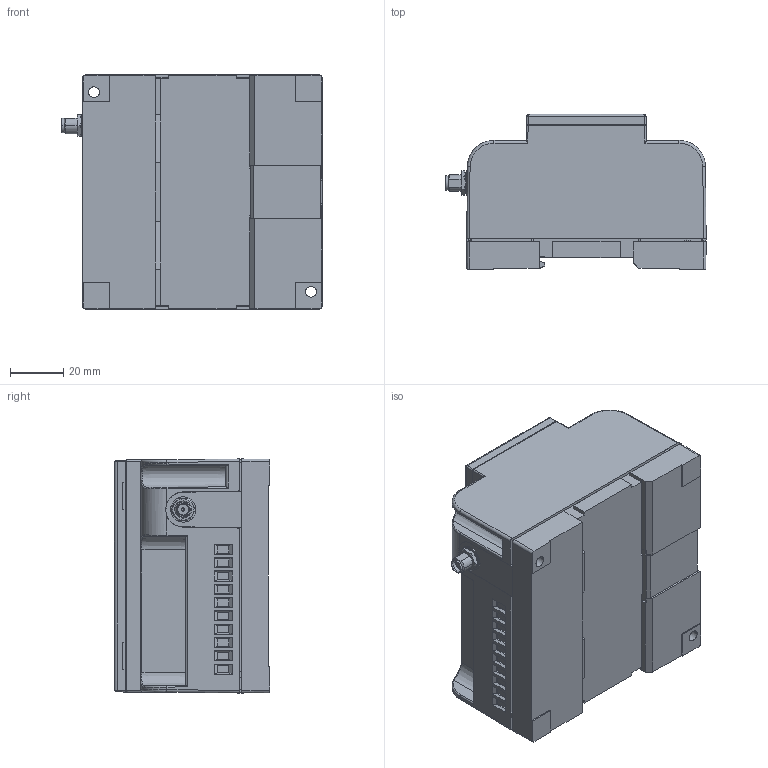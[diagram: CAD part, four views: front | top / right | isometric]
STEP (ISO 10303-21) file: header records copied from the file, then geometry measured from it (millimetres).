
FILE_DESCRIPTION (( 'STEP AP214' ), '1' );
FILE_NAME ('CMS-10R-.STEP', '2021-06-18T07:07:10', ( '' ), ( '' ), 'SwSTEP 2.0', 'SolidWorks 2016', '' );
FILE_SCHEMA (( 'AUTOMOTIVE_DESIGN' ));
Length unit declared in the file: millimetre
Products named in the file (1): CMS-10R-
Bounding box: 97.85 x 58.37 x 88 mm (x, y, z)
Volume: 366635 mm3; surface area: 49140.8 mm2
Topology: 2 solids, 3 shells, 886 faces, 2222 edges, 1398 vertices
Faces by surface type: plane 569, cylinder 218, bspline 66, cone 33
Entity records: 38613 total; most frequent: CARTESIAN_POINT 8107, ORIENTED_EDGE 4432, DIRECTION 4051, EDGE_CURVE 2216, VECTOR 1571, LINE 1571, VERTEX_POINT 1398, AXIS2_PLACEMENT_3D 1240
